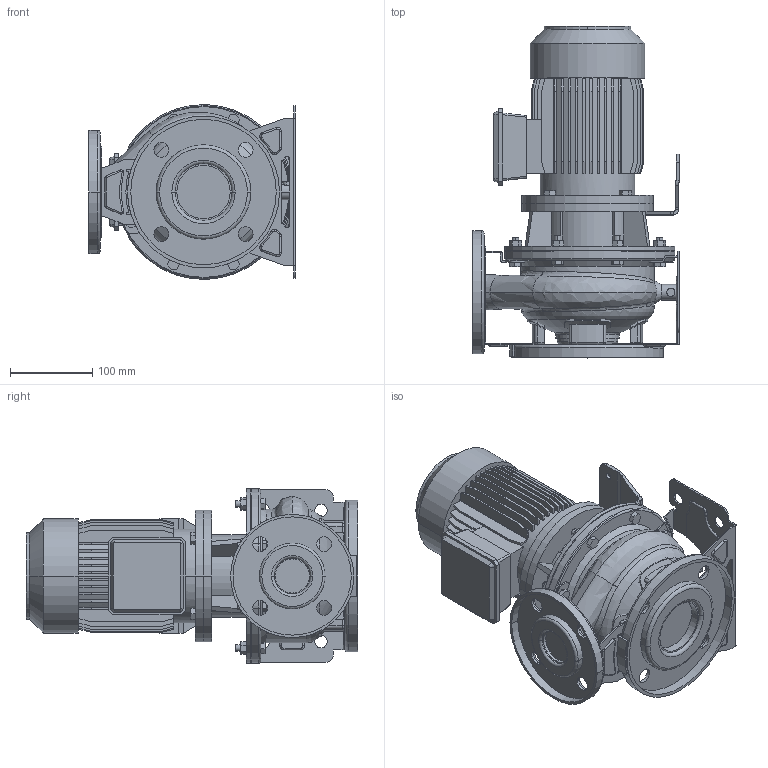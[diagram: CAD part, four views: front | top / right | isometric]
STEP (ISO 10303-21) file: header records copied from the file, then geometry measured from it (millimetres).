
FILE_DESCRIPTION((''),'2;1');
FILE_NAME('3S4_40-125_0_37_IE1_ASM','2016-09-23T',('rosa'),('"Ebara Pumps Europe +39.444.706811"'),'PRO/ENGINEER BY PARAMETRIC TECHNOLOGY CORPORATION, 2012130','PRO/ENGINEER BY PARAMETRIC TECHNOLOGY CORPORATION, 2012130','');
FILE_SCHEMA(('AUTOMOTIVE_DESIGN { 1 0 10303 214 1 1 1 1 }'));
Length unit declared in the file: millimetre
Products named in the file (11): MOTORE_71_0_25-0_37_KW_4POLI_B5; SUPPORTO_3S_160_71; SOSTEGNO_3S_72016; CORPO_40-125_AF0; ASP_40-125; FLANGIA_DIN_65; MAND_40-125; FLANGIA_DIN_40; BASE_3M_40-125; CORPO_SALDATO_40-125_ASM; 3S4_40-125_0_37_IE1_ASM
Assembly tree (10 placements, depth 3):
  3S4_40-125_0_37_IE1_ASM
    MOTORE_71_0_25-0_37_KW_4POLI_B5
    SUPPORTO_3S_160_71
    SOSTEGNO_3S_72016
    CORPO_SALDATO_40-125_ASM
      CORPO_40-125_AF0
      ASP_40-125
      FLANGIA_DIN_65
      MAND_40-125
      FLANGIA_DIN_40
      BASE_3M_40-125
Bounding box: 252 x 404 x 212.96 mm (x, y, z)
Volume: 6089542.9 mm3; surface area: 841936.4 mm2
Topology: 12 solids, 12 shells, 1056 faces, 2726 edges, 1789 vertices
Faces by surface type: plane 648, cylinder 290, torus 54, bspline 34, cone 24, sphere 6
Entity records: 45036 total; most frequent: CARTESIAN_POINT 8657, DIRECTION 5547, ORIENTED_EDGE 5436, EDGE_CURVE 2718, PRESENTATION_STYLE_ASSIGNMENT 2597, STYLED_ITEM 2597, CURVE_STYLE 2586, AXIS2_PLACEMENT_3D 1889
